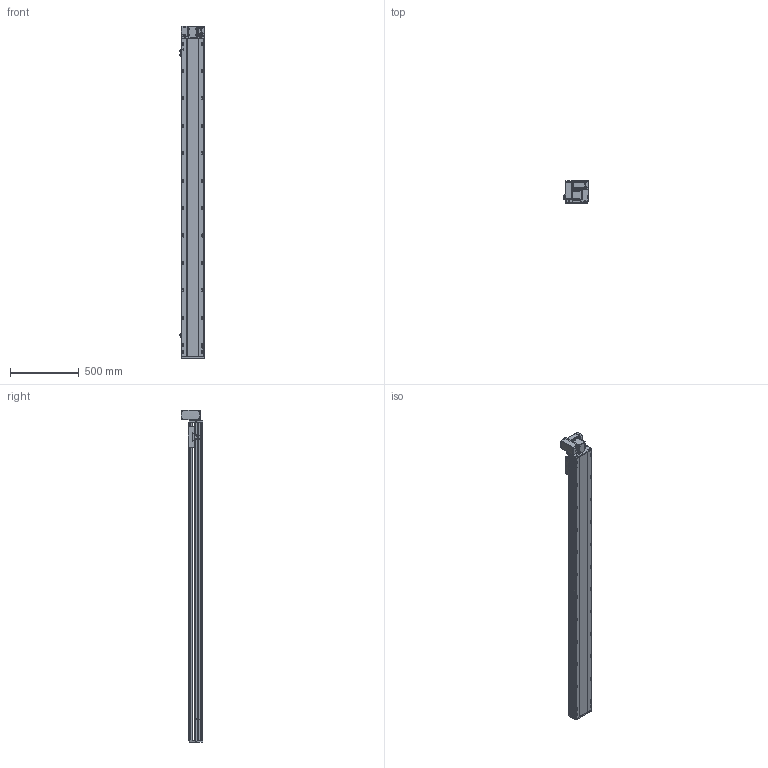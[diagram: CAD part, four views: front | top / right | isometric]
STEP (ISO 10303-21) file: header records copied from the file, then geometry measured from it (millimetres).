
FILE_DESCRIPTION (( 'STEP AP214' ), '1' );
FILE_NAME ('RTB17S-XX-2050-LW-M40-C4.STEP', '2025-12-11T07:13:34', ( '' ), ( '' ), 'SwSTEP 2.0', 'SolidWorks 2018', '' );
FILE_SCHEMA (( 'AUTOMOTIVE_DESIGN' ));
Length unit declared in the file: millimetre
Products named in the file (14): RTB14-L-008-M20--萇儂啣^RTB17S-LW-々湍釱蚾饜-400W_RTB17S-XX-XX-LW-M40-C4; RTB17S-L-014-T20--々湍釱^RTB17S-LW-々湍釱蚾饜-400W_RTB17S-XX-XX-LW-M40-C4; RTH13-BL-012覜茼え俋离^RTB17S-XX-XX-LW-M40-C4; 400W侜督萇儂^RTB17S-XX-XX-LW-M40-C4; OMRON EE-SX672 传感器^RTB17S-XX-XX-LW-M40-C4; RTB14-L-005P--轴承塑胶压盖^RTB17S-LW-皮带座装配-400W_RTB17S-XX-XX-LW-M40-C4; RTB17S-LW-々湍釱蚾饜-400W^RTB17S-XX-XX-LW-M40-C4; RTB17S-L-004佪裝蹟譫蟀諉釱^RTB17S-XX-XX-LW-M40-C4; RTB17-R-011菁釱^RTB17S-XX-XX-LW-M40-C4; RTB17S-L-001耜醱啣^RTB17S-XX-XX-LW-M40-C4; RTB14-L-018P^RTB17S-LW-々湍釱蚾饜-400W_RTB17S-XX-XX-LW-M40-C4; RTB17S-L-007奻裔^RTB17S-XX-XX-LW-M40-C4; RTB14-L-017P^RTB17S-LW-々湍釱蚾饜-400W_RTB17S-XX-XX-LW-M40-C4; RTB17S-XX-2050-LW-M40-C4
Assembly tree (16 placements, depth 3):
  RTB17S-XX-2050-LW-M40-C4
    RTB17-R-011菁釱^RTB17S-XX-XX-LW-M40-C4
    RTB17S-L-007奻裔^RTB17S-XX-XX-LW-M40-C4
    OMRON EE-SX672 传感器^RTB17S-XX-XX-LW-M40-C4  x3
    RTB17S-L-001耜醱啣^RTB17S-XX-XX-LW-M40-C4
    400W侜督萇儂^RTB17S-XX-XX-LW-M40-C4
    RTB17S-L-004佪裝蹟譫蟀諉釱^RTB17S-XX-XX-LW-M40-C4
    RTH13-BL-012覜茼え俋离^RTB17S-XX-XX-LW-M40-C4
    RTB17S-LW-々湍釱蚾饜-400W^RTB17S-XX-XX-LW-M40-C4
      RTB17S-L-014-T20--々湍釱^RTB17S-LW-々湍釱蚾饜-400W_RTB17S-XX-XX-LW-M40-C4
      RTB14-L-005P--轴承塑胶压盖^RTB17S-LW-皮带座装配-400W_RTB17S-XX-XX-LW-M40-C4
      RTB14-L-008-M20--萇儂啣^RTB17S-LW-々湍釱蚾饜-400W_RTB17S-XX-XX-LW-M40-C4
      RTB14-L-017P^RTB17S-LW-々湍釱蚾饜-400W_RTB17S-XX-XX-LW-M40-C4  x2
      RTB14-L-018P^RTB17S-LW-々湍釱蚾饜-400W_RTB17S-XX-XX-LW-M40-C4
Bounding box: 186 x 160.5 x 2422.5 mm (x, y, z)
Volume: 20931773.7 mm3; surface area: 2433619.4 mm2
Topology: 15 solids, 15 shells, 2301 faces, 6411 edges, 4185 vertices
Faces by surface type: plane 1080, cylinder 773, bspline 301, cone 139, torus 8
Entity records: 67241 total; most frequent: CARTESIAN_POINT 19016, ORIENTED_EDGE 9666, DIRECTION 8936, EDGE_CURVE 4833, VERTEX_POINT 3173, AXIS2_PLACEMENT_3D 3103, LINE 2730, VECTOR 2730
